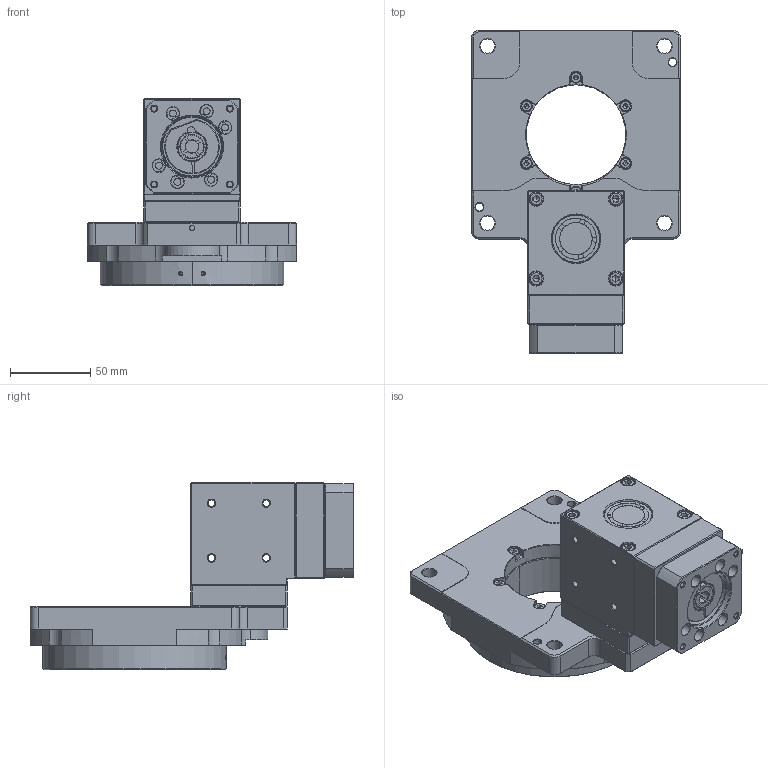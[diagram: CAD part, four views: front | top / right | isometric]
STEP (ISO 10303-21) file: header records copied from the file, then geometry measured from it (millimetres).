
FILE_DESCRIPTION (( 'STEP AP203' ), '1' );
FILE_NAME ('HRG130Z 蚾饜极.STEP', '2022-08-03T05:55:44', ( 'Windows User' ), ( 'P R C' ), 'SwSTEP 2.0', 'SolidWorks 2020', '' );
FILE_SCHEMA (( 'CONFIG_CONTROL_DESIGN' ));
Length unit declared in the file: millimetre
Products named in the file (1): HRG130Z 蚾饜极
Bounding box: 130 x 201.3 x 116.5 mm (x, y, z)
Surface area: 121199.1 mm2 (no closed solid volume)
Topology: 0 solids, 30 shells, 720 faces, 2081 edges, 1347 vertices
Faces by surface type: plane 297, cone 198, cylinder 187, torus 34, bspline 4
Entity records: 24009 total; most frequent: CARTESIAN_POINT 4914, DIRECTION 4189, ORIENTED_EDGE 3582, EDGE_CURVE 2063, AXIS2_PLACEMENT_3D 1572, VERTEX_POINT 1347, VECTOR 1045, LINE 1045
